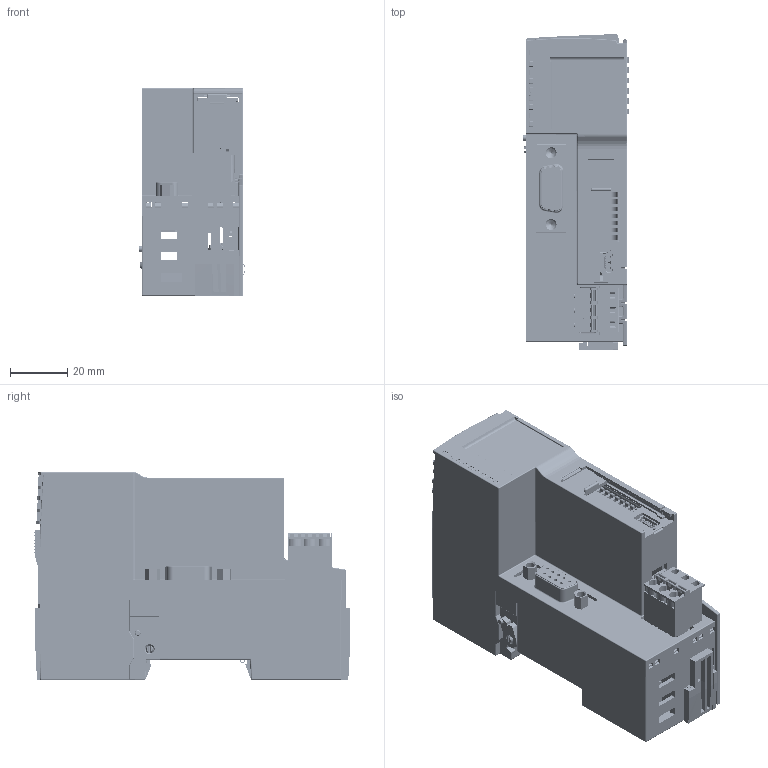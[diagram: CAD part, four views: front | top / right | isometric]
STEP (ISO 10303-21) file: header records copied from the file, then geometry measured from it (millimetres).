
FILE_DESCRIPTION (( 'STEP AP214' ), '1' );
FILE_NAME ('PB_DSUB_f.STEP', '2019-07-17T09:45:46', ( '' ), ( '' ), 'SwSTEP 2.0', 'SolidWorks 2019', '' );
FILE_SCHEMA (( 'AUTOMOTIVE_DESIGN' ));
Length unit declared in the file: millimetre
Products named in the file (73): 5000751517; Rückteil_35_Buskoppler; Rechts_geschlossen_14_21_optim_Zchng; Messer_L鰐_21_Messer_L攖_21; Schieberhebel_20; Messer_L飆_21; Geh_Sockel14_21_Lichtgrau; Links_geschlossen_14_21_optim_Zchng; X003-1-s-0p V00-00; Abdeckung_Sockel_22_Basaltgrau_optimiert_Basaltgrau_Abdeckung_Sockel_22; DIP switch 10; Kodierer_2; Schiebefenster_21_Schiebefenster_21; Beschriftungsstreifen_Buskoppler_Beschriftungsstreifen_Buskoppler; Tulpe_Power_L飆_21_optimiert; g-mpi-010 V00-00; Schirmkontakt_5_Schirmkontakt_5; Lichtführung_24; Messer_Tulpe; Abdeckung_Sockel_22_Basaltgrau_optimiert; Rechts_geschlossen_14_21_optim_Zchng_Rechts_geschlossen_14_21; Schieberhebel_20_Schieberhebel_20; Schiebefenster_21; D SUB 9P female - FL09S7-K121 (FCT); Kodierer_1; pxc_1954922_04_CCA-2-5-3-G-5-08-P26THR_3D; Beschriftungsstreifen_Buskoppler; Verriegelung_oben_1_Verriegelung_oben_1; Unterteil_35_25; Geh_Sockel14_21_Lichtgrau_Lichtgrau_Geh_Sockel14_21; PB_DSUB_f; Oberteil_PB_35_23_5pol Stecker+switch; Kopf_PH_3; Kodierer_1_Kodierer_1; Schirmkontakt_5; Tulpe_Power_Löt_21_optimiert_Tulpe_Power_L”t_21; Kodierer_2_Kodierer_2; Unterteil_35_25_Basaltgrau_Unterteil_35_25; Lichtf黨rung_24_Lichtf乭rung_24; Verriegelung_oben_1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
Assembly tree (47 placements, depth 4):
  Rechts_geschlossen_14_21_optim_Zchng
  Rechts_geschlossen_14_21_optim_Zchng
  Schieberhebel_20
  Messer_L飆_21
  Geh_Sockel14_21_Lichtgrau
Bounding box: 37.17 x 110.03 x 72.5 mm (x, y, z)
Volume: 56686.8 mm3; surface area: 91507.8 mm2
Topology: 47 solids, 47 shells, 8732 faces, 25158 edges, 16386 vertices
Faces by surface type: plane 5197, cylinder 3009, bspline 207, torus 174, cone 77, sphere 68
Entity records: 265268 total; most frequent: CARTESIAN_POINT 58858, ORIENTED_EDGE 42538, DIRECTION 39089, EDGE_CURVE 21269, VECTOR 15471, LINE 15471, VERTEX_POINT 13876, AXIS2_PLACEMENT_3D 11809
